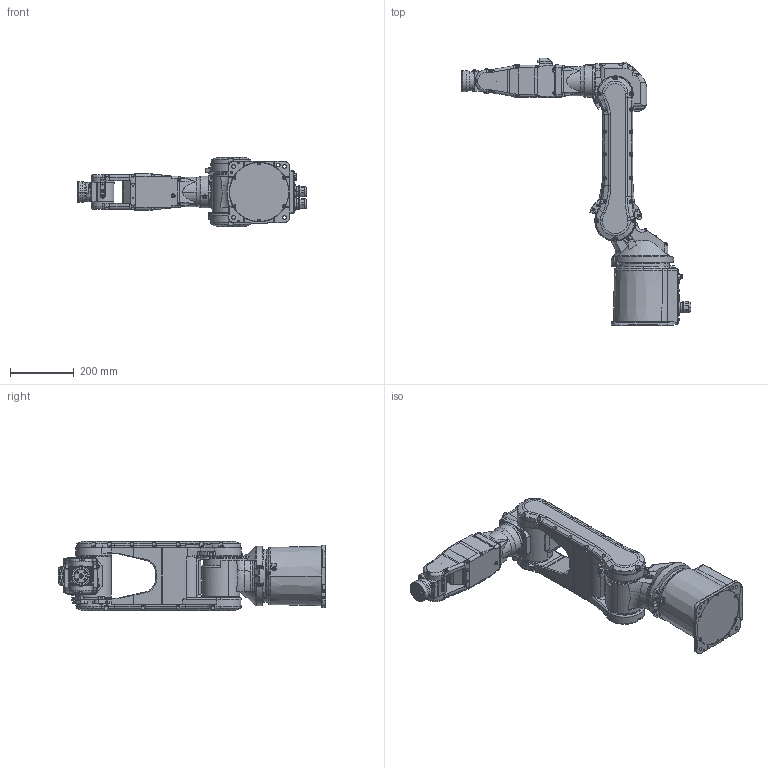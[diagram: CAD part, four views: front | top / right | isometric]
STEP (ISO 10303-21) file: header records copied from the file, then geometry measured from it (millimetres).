
FILE_DESCRIPTION( ( '' ), '1' );
FILE_NAME( '//expscmdclustefs.cadenas.external/client_exchange/iodir/jobs/output/wkb51551880_no0/STEP/S5_A901SW_2_03.stp', '2012-11-23T15:14:54', ( '' ), ( '' ), ' ', ' ', ' ' );
FILE_SCHEMA( ( 'CONFIG_CONTROL_DESIGN' ) );
Length unit declared in the file: millimetre
Products named in the file (7): 1; 2; 3; 4; 5; 6; 7
Bounding box: 723.2 x 842 x 218 mm (x, y, z)
Volume: 21202961.8 mm3; surface area: 1086756.9 mm2
Topology: 7 solids, 7 shells, 3487 faces, 9033 edges, 5887 vertices
Faces by surface type: plane 1858, cylinder 1067, torus 325, cone 236, sphere 1
Entity records: 113372 total; most frequent: CARTESIAN_POINT 25855, DIRECTION 18785, ORIENTED_EDGE 18002, EDGE_CURVE 9001, AXIS2_PLACEMENT_3D 6873, VERTEX_POINT 5887, LINE 5039, VECTOR 5039
